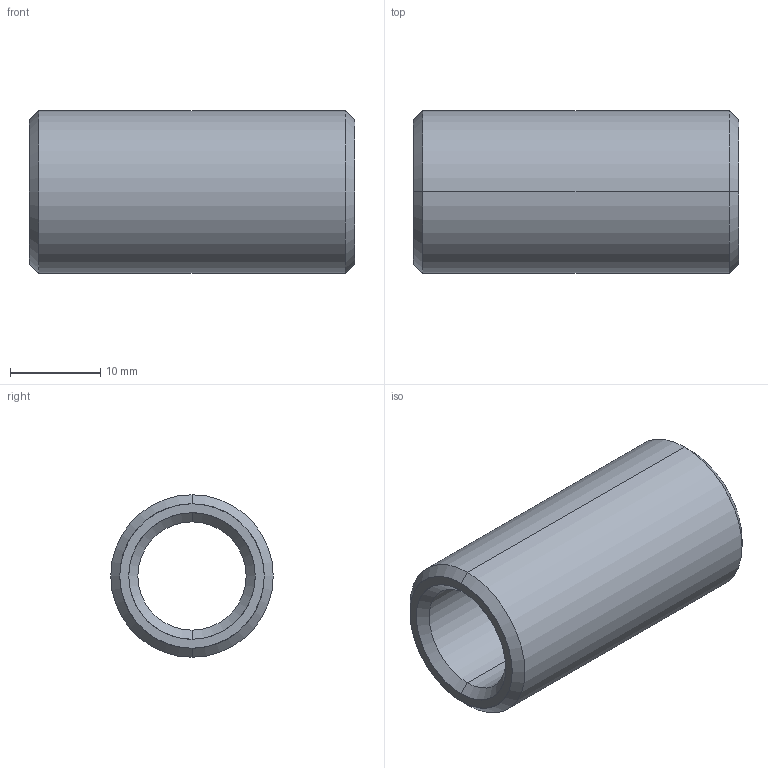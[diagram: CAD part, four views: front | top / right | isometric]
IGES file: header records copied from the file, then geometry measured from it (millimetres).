
Start section: START RECORD GO HERE.
Global section: file name: 352-12X36.igs; native system: DASSAULT SYSTEMES CATIA V5 R20 - www.3ds.com; preprocessor: CATIA Version 5 Release 20 ; author: Utente; organization: NB04-ASUS; date: 20210410.112419; units: millimetre
Bounding box: 36 x 18 x 18 mm (x, y, z)
Surface area: 3570.3 mm2 (no closed solid volume)
Topology: 0 solids, 0 shells, 14 faces, 88 edges, 88 vertices
Faces by surface type: revolution 12, plane 2
